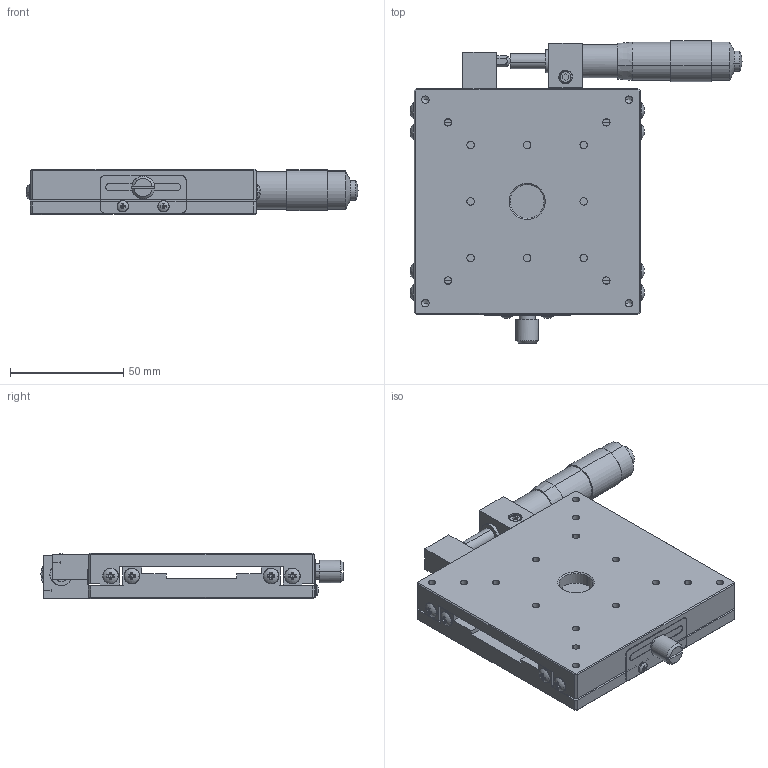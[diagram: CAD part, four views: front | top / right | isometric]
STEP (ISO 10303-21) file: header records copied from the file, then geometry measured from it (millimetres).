
FILE_DESCRIPTION (( 'STEP AP203' ), '1' );
FILE_NAME ('MX100-R.STEP', '2026-04-09T01:43:31', ( '' ), ( '' ), 'SwSTEP 2.0', 'SolidWorks 2021', '' );
FILE_SCHEMA (( 'CONFIG_CONTROL_DESIGN' ));
Length unit declared in the file: millimetre
Products named in the file (1): MX100-R
Bounding box: 146.8 x 133.59 x 20 mm (x, y, z)
Volume: 188261.8 mm3; surface area: 67733.7 mm2
Topology: 3 solids, 9 shells, 617 faces, 1617 edges, 1011 vertices
Faces by surface type: plane 352, cylinder 131, cone 92, bspline 20, sphere 12, torus 10
Entity records: 23363 total; most frequent: CARTESIAN_POINT 9659, ORIENTED_EDGE 3080, DIRECTION 2346, EDGE_CURVE 1540, VERTEX_POINT 988, AXIS2_PLACEMENT_3D 827, EDGE_LOOP 708, VECTOR 692
